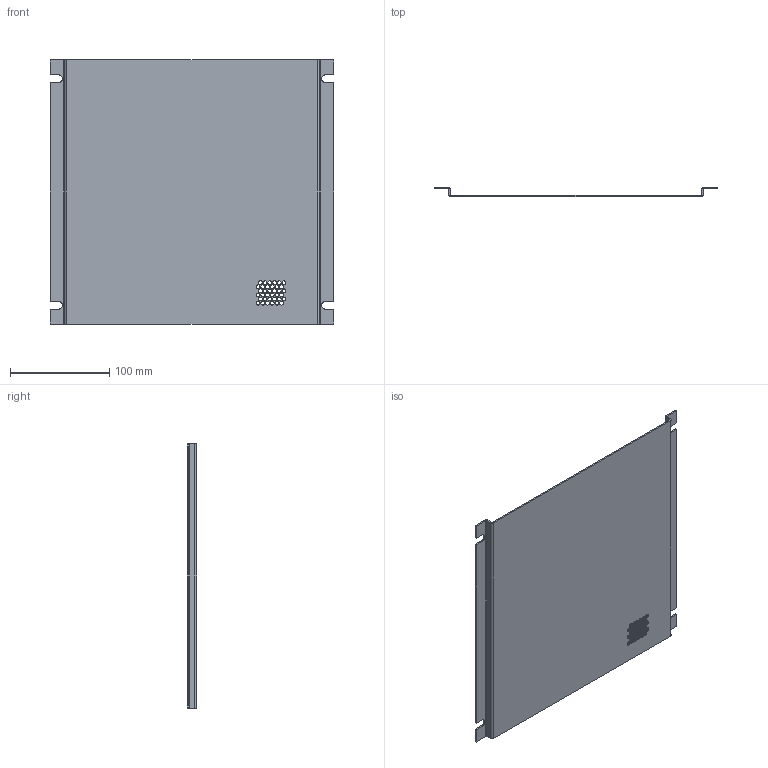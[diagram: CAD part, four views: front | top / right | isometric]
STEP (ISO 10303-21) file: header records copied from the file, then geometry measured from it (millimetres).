
FILE_DESCRIPTION( ( 'Unknown' ), '1' );
FILE_NAME( 'Q:/WEB DRAWINGS/STEP/SWBP1212.stp', 'Unknown', ( 'Unknown' ), ( 'Unknown' ), 'PSStep 17.0.49', 'Unknown', ' ' );
FILE_SCHEMA( ( 'AUTOMOTIVE_DESIGN { 1 0 10303 214 1 1 1 1 }' ) );
Length unit declared in the file: millimetre
Products named in the file (1): 1
Bounding box: 286.03 x 9.53 x 266.7 mm (x, y, z)
Volume: 114557.3 mm3; surface area: 160658.7 mm2
Topology: 1 solids, 1 shells, 74 faces, 252 edges, 180 vertices
Faces by surface type: cylinder 48, plane 26
Full cylindrical faces by diameter (mm): 3.962 x36
Entity records: 2475 total; most frequent: DIRECTION 426, CARTESIAN_POINT 399, ORIENTED_EDGE 360, EDGE_LOOP 182, EDGE_CURVE 180, AXIS2_PLACEMENT_3D 171, VERTEX_POINT 144, FACE_OUTER_BOUND 110
